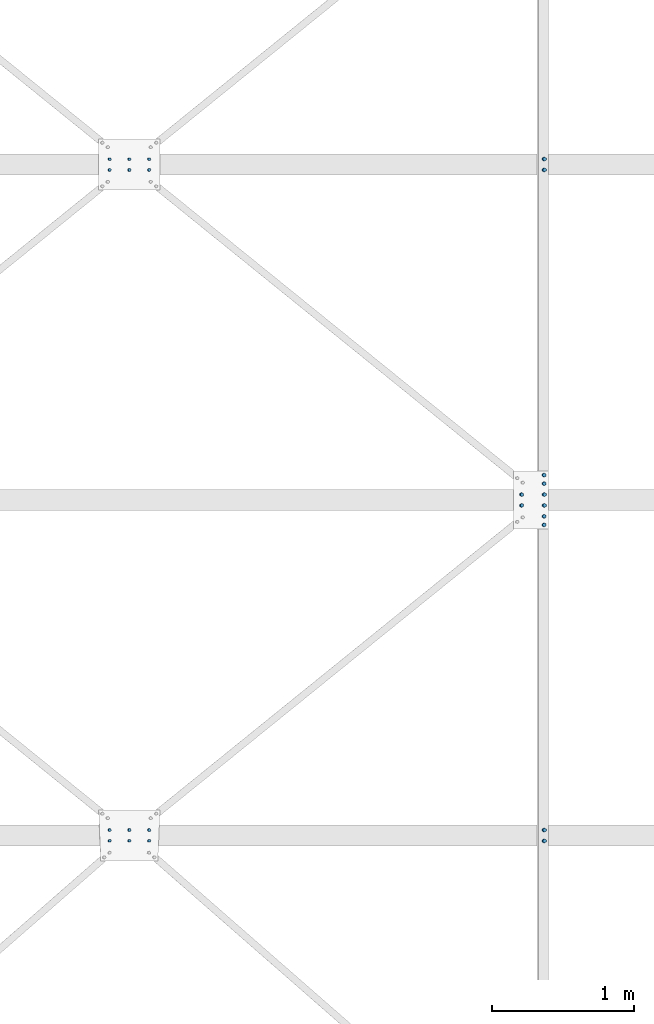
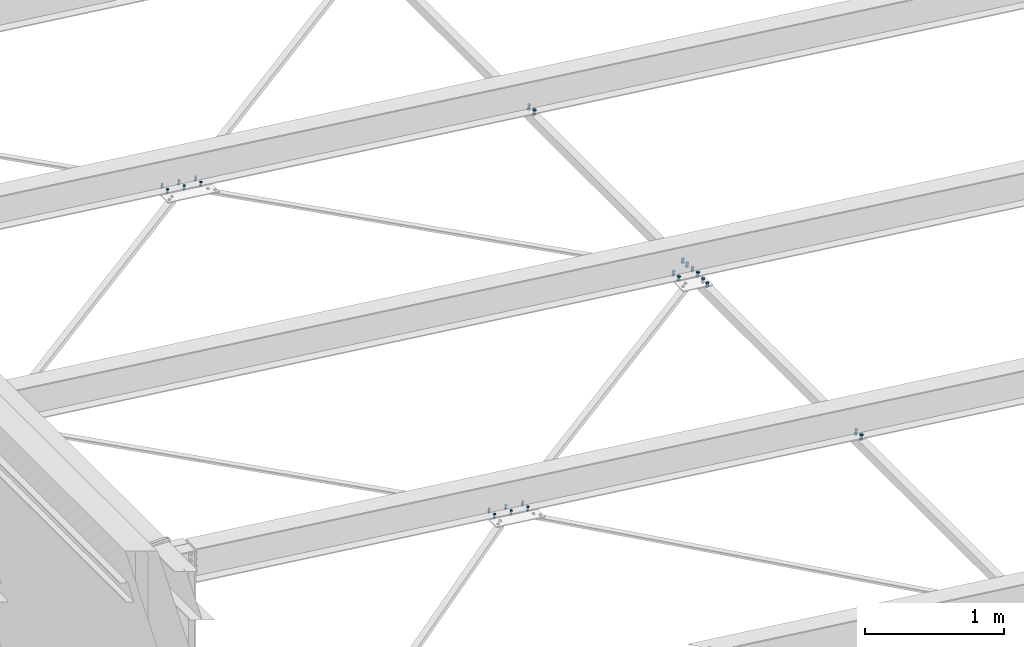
# One storey, part 35 of 3134: 7 mechanical fasteners, 6 elements without a shape of their own.
"""IFC2X3 building model written with IfcOpenShell, lengths in millimetres."""

from ifc_helpers import new_model, si_unit, frame, origin_with_axes, place, context, subcontext, project, spatial, faceted_brep, source, transform, mapped, material, type_object, element, aggregate, save


model = new_model("IFC2X3")

# Units and contexts
model_context = context("Model", 3, precision=1e-05, world=origin_with_axes())
body_context = subcontext(model_context, "Body", "Model", "MODEL_VIEW")
ifc_project = project(units=[si_unit("LENGTHUNIT", "METRE", prefix="MILLI"), si_unit("AREAUNIT", "SQUARE_METRE"), si_unit("VOLUMEUNIT", "CUBIC_METRE"), si_unit("MASSUNIT", "GRAM", prefix="KILO"), si_unit("TIMEUNIT", "SECOND"), si_unit("PLANEANGLEUNIT", "RADIAN"), si_unit("SOLIDANGLEUNIT", "STERADIAN"), si_unit("THERMODYNAMICTEMPERATUREUNIT", "DEGREE_CELSIUS"), si_unit("LUMINOUSINTENSITYUNIT", "LUMEN")], contexts=[model_context])

# Site, building, storey
site_placement = place(None, origin_with_axes())
site = spatial("IfcSite", under=ifc_project, at=site_placement, CompositionType="ELEMENT")
building_placement = place(site_placement, origin_with_axes())
building = spatial("IfcBuilding", under=site, at=building_placement, Name="Undefined", CompositionType="ELEMENT")
storey_placement = place(building_placement, origin_with_axes())
storey = spatial("IfcBuildingStorey", under=building, at=storey_placement, Name="Undefined", CompositionType="ELEMENT", Elevation=0.0)

# Assembly, mechanical fastener
assembly_1_placement = place(storey_placement, origin_with_axes())
assembly_1 = element("IfcElementAssembly", 1, at=assembly_1_placement, inside=storey, Name="300", AssemblyPlace="NOTDEFINED", PredefinedType="RIGID_FRAME")
ifc_material = material(Name="8.8")
mechanical_fastener_type = type_object("IfcMechanicalFastenerType", Name="Bolt assembly")
shared_shape_1 = source(origin_with_axes(), body_context, "Body", "Brep", [
    faceted_brep([(13.856406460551, -19.199990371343, 0.0), (6.92820323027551, -19.199990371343, 12.0), (-6.92820323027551, -19.199990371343, 12.0), (-13.856406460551, -19.199990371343, 1.69692038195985e-15), (-6.92820323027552, -19.199990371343, -12.0), (6.9282032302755, -19.199990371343, -12.0), (6.9282032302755, -9.19999037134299, -12.0), (-6.92820323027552, -9.19999037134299, -12.0), (-13.856406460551, -9.19999037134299, 1.69692038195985e-15), (-6.92820323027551, -9.19999037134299, 12.0), (6.92820323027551, -9.19999037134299, 12.0), (13.856406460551, -9.19999037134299, 0.0), (8.0, -9.19999037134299, 0.0), (6.92820323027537, -9.19999037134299, 4.00000000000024), (3.99999999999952, -9.19999037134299, 6.92820323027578), (-8.29068785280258e-13, -9.19999037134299, 8.0), (-4.00000000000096, -9.19999037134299, 6.92820323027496), (-6.9282032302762, -9.19999037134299, 3.99999999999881), (-8.0, -9.19999037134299, -1.65813757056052e-12), (-6.92820323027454, -9.19999037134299, -4.00000000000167), (-3.99999999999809, -9.19999037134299, -6.92820323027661), (2.47832457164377e-12, -9.19999037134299, -8.0), (4.00000000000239, -9.19999037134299, -6.92820323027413), (6.92820323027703, -9.19999037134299, -3.99999999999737), (6.92820323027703, 25.800009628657, -3.99999999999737), (4.00000000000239, 25.800009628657, -6.92820323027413), (2.47832457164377e-12, 25.800009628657, -8.0), (-3.99999999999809, 25.800009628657, -6.92820323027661), (-6.92820323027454, 25.800009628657, -4.00000000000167), (-8.0, 25.800009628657, -1.65813757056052e-12), (-6.9282032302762, 25.800009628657, 3.99999999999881), (-4.00000000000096, 25.800009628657, 6.92820323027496), (-8.29068785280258e-13, 25.800009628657, 8.0), (3.99999999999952, 25.800009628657, 6.92820323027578), (6.92820323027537, 25.800009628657, 4.00000000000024), (8.0, 25.800009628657, 0.0), (13.856406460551, 8.00000637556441, 0.0), (6.92820323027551, 8.00000637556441, 12.0), (-6.92820323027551, 8.00000637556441, 12.0), (-13.856406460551, 8.00000637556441, 1.69692038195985e-15), (-6.92820323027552, 8.00000637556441, -12.0), (6.9282032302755, 8.00000637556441, -12.0), (6.9282032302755, 21.0000063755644, -12.0), (-6.92820323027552, 21.0000063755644, -12.0), (-13.856406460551, 21.0000063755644, 1.69692038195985e-15), (-6.92820323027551, 21.0000063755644, 12.0), (6.92820323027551, 21.0000063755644, 12.0), (13.856406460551, 21.0000063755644, 0.0)], [[[0, 1, 2, 3, 4, 5]], [[6, 7, 8, 9, 10, 11]], [[0, 11, 10, 1]], [[1, 10, 9, 2]], [[2, 9, 8, 3]], [[3, 8, 7, 4]], [[4, 7, 6, 5]], [[5, 6, 11, 0]], [[12, 13, 14, 15, 16, 17, 18, 19, 20, 21, 22, 23]], [[24, 25, 26, 27, 28, 29, 30, 31, 32, 33, 34, 35]], [[12, 35, 34, 13]], [[13, 34, 33, 14]], [[14, 33, 32, 15]], [[15, 32, 31, 16]], [[16, 31, 30, 17]], [[17, 30, 29, 18]], [[18, 29, 28, 19]], [[19, 28, 27, 20]], [[20, 27, 26, 21]], [[21, 26, 25, 22]], [[22, 25, 24, 23]], [[23, 24, 35, 12]], [[36, 37, 38, 39, 40, 41]], [[42, 43, 44, 45, 46, 47]], [[36, 47, 46, 37]], [[37, 46, 45, 38]], [[38, 45, 44, 39]], [[39, 44, 43, 40]], [[40, 43, 42, 41]], [[41, 42, 47, 36]]]),
    faceted_brep([(9.0, -0.1, 0.0), (7.79422863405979, -0.1, 4.50000000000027), (4.49999999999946, -0.1, 7.79422863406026), (-9.3270238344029e-13, -0.1, 9.0), (-4.50000000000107, -0.1, 7.79422863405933), (-7.79422863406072, -0.1, 4.49999999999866), (-9.0, -0.1, -1.86540476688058e-12), (-7.79422863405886, -0.1, -4.50000000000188), (-4.49999999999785, -0.1, -7.79422863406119), (2.78811514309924e-12, -0.1, -9.0), (4.50000000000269, -0.1, -7.7942286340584), (7.79422863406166, -0.1, -4.49999999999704), (7.79422863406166, 8.00000000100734, -4.49999999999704), (4.50000000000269, 8.00000000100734, -7.7942286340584), (2.78811514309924e-12, 8.00000000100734, -9.0), (-4.49999999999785, 8.00000000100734, -7.79422863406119), (-7.79422863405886, 8.00000000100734, -4.50000000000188), (-9.0, 8.00000000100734, -1.86540476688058e-12), (-7.79422863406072, 8.00000000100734, 4.49999999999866), (-4.50000000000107, 8.00000000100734, 7.79422863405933), (-9.3270238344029e-13, 8.00000000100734, 9.0), (4.49999999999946, 8.00000000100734, 7.79422863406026), (7.79422863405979, 8.00000000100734, 4.50000000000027), (9.0, 8.00000000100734, 0.0), (9.0, -9.09999037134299, 0.0), (7.79422863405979, -9.09999037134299, 4.50000000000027), (4.49999999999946, -9.09999037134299, 7.79422863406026), (-9.3270238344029e-13, -9.09999037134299, 9.0), (-4.50000000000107, -9.09999037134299, 7.79422863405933), (-7.79422863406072, -9.09999037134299, 4.49999999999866), (-9.0, -9.09999037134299, -1.86540476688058e-12), (-7.79422863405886, -9.09999037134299, -4.50000000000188), (-4.49999999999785, -9.09999037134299, -7.79422863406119), (2.78811514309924e-12, -9.09999037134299, -9.0), (4.50000000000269, -9.09999037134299, -7.7942286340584), (7.79422863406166, -9.09999037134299, -4.49999999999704), (7.79422863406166, 0.100000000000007, -4.49999999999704), (4.50000000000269, 0.100000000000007, -7.7942286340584), (2.78811514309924e-12, 0.100000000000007, -9.0), (-4.49999999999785, 0.100000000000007, -7.79422863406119), (-7.79422863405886, 0.100000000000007, -4.50000000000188), (-9.0, 0.100000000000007, -1.86540476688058e-12), (-7.79422863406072, 0.100000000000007, 4.49999999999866), (-4.50000000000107, 0.100000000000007, 7.79422863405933), (-9.3270238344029e-13, 0.100000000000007, 9.0), (4.49999999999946, 0.100000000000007, 7.79422863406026), (7.79422863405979, 0.100000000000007, 4.50000000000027), (9.0, 0.100000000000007, 0.0)], [[[0, 1, 2, 3, 4, 5, 6, 7, 8, 9, 10, 11]], [[12, 13, 14, 15, 16, 17, 18, 19, 20, 21, 22, 23]], [[0, 23, 22, 1]], [[1, 22, 21, 2]], [[2, 21, 20, 3]], [[3, 20, 19, 4]], [[4, 19, 18, 5]], [[5, 18, 17, 6]], [[6, 17, 16, 7]], [[7, 16, 15, 8]], [[8, 15, 14, 9]], [[9, 14, 13, 10]], [[10, 13, 12, 11]], [[11, 12, 23, 0]], [[24, 25, 26, 27, 28, 29, 30, 31, 32, 33, 34, 35]], [[36, 37, 38, 39, 40, 41, 42, 43, 44, 45, 46, 47]], [[24, 47, 46, 25]], [[25, 46, 45, 26]], [[26, 45, 44, 27]], [[27, 44, 43, 28]], [[28, 43, 42, 29]], [[29, 42, 41, 30]], [[30, 41, 40, 31]], [[31, 40, 39, 32]], [[32, 39, 38, 33]], [[33, 38, 37, 34]], [[34, 37, 36, 35]], [[35, 36, 47, 24]]]),
])
mechanical_fastener_1_placement = place(assembly_1_placement, frame((26608.5751064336, 9972.0, 4816.43281405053), z_axis=(-0.992623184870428, 0.0, 0.121240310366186), x_axis=(0.0, 1.0, 0.0)))
mechanical_fastener_1 = element("IfcMechanicalFastener", 2, at=mechanical_fastener_1_placement, type_object=mechanical_fastener_type, material=ifc_material, Name="Bolt assembly", NominalDiameter=16.0, NominalLength=35.0, context=body_context, shape_type="MappedRepresentation", body=[
    mapped(shared_shape_1, transform((0.0, -5.32963895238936e-10, -79.9999999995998))),
    mapped(shared_shape_1, transform((76.0, -5.32963895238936e-10, -79.9999999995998))),
    mapped(shared_shape_1, transform((0.0, 5.3114490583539e-10, 79.9999999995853))),
    mapped(shared_shape_1, transform((76.0, 5.3114490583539e-10, 79.9999999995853))),
])
aggregate(assembly_1, [mechanical_fastener_1])

assembly_2_placement = place(storey_placement, origin_with_axes())
assembly_2 = element("IfcElementAssembly", 3, at=assembly_2_placement, inside=storey, AssemblyPlace="NOTDEFINED", PredefinedType="RIGID_FRAME")
shared_shape_2 = source(origin_with_axes(), body_context, "Body", "Brep", [
    faceted_brep([(13.856406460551, -19.199990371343, 0.0), (6.92820323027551, -19.199990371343, 12.0), (-6.92820323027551, -19.199990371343, 12.0), (-13.856406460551, -19.199990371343, 1.69692038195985e-15), (-6.92820323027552, -19.199990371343, -12.0), (6.9282032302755, -19.199990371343, -12.0), (6.9282032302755, -9.19999037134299, -12.0), (-6.92820323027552, -9.19999037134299, -12.0), (-13.856406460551, -9.19999037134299, 1.69692038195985e-15), (-6.92820323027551, -9.19999037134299, 12.0), (6.92820323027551, -9.19999037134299, 12.0), (13.856406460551, -9.19999037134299, 0.0), (8.0, -9.19999037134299, 0.0), (6.92820323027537, -9.19999037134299, 4.00000000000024), (3.99999999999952, -9.19999037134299, 6.92820323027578), (-8.29068785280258e-13, -9.19999037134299, 8.0), (-4.00000000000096, -9.19999037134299, 6.92820323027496), (-6.9282032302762, -9.19999037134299, 3.99999999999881), (-8.0, -9.19999037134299, -1.65813757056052e-12), (-6.92820323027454, -9.19999037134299, -4.00000000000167), (-3.99999999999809, -9.19999037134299, -6.92820323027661), (2.47832457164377e-12, -9.19999037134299, -8.0), (4.00000000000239, -9.19999037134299, -6.92820323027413), (6.92820323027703, -9.19999037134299, -3.99999999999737), (6.92820323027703, 35.8000002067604, -3.99999999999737), (4.00000000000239, 35.8000002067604, -6.92820323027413), (2.47832457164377e-12, 35.8000002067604, -8.0), (-3.99999999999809, 35.8000002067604, -6.92820323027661), (-6.92820323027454, 35.8000002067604, -4.00000000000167), (-8.0, 35.8000002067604, -1.65813757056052e-12), (-6.9282032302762, 35.8000002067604, 3.99999999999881), (-4.00000000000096, 35.8000002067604, 6.92820323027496), (-8.29068785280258e-13, 35.8000002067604, 8.0), (3.99999999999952, 35.8000002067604, 6.92820323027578), (6.92820323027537, 35.8000002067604, 4.00000000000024), (8.0, 35.8000002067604, 0.0), (13.856406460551, 14.9999995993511, 0.0), (6.92820323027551, 14.9999995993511, 12.0), (-6.92820323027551, 14.9999995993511, 12.0), (-13.856406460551, 14.9999995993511, 1.69692038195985e-15), (-6.92820323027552, 14.9999995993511, -12.0), (6.9282032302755, 14.9999995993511, -12.0), (6.9282032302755, 27.9999995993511, -12.0), (-6.92820323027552, 27.9999995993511, -12.0), (-13.856406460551, 27.9999995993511, 1.69692038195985e-15), (-6.92820323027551, 27.9999995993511, 12.0), (6.92820323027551, 27.9999995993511, 12.0), (13.856406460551, 27.9999995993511, 0.0)], [[[0, 1, 2, 3, 4, 5]], [[6, 7, 8, 9, 10, 11]], [[0, 11, 10, 1]], [[1, 10, 9, 2]], [[2, 9, 8, 3]], [[3, 8, 7, 4]], [[4, 7, 6, 5]], [[5, 6, 11, 0]], [[12, 13, 14, 15, 16, 17, 18, 19, 20, 21, 22, 23]], [[24, 25, 26, 27, 28, 29, 30, 31, 32, 33, 34, 35]], [[12, 35, 34, 13]], [[13, 34, 33, 14]], [[14, 33, 32, 15]], [[15, 32, 31, 16]], [[16, 31, 30, 17]], [[17, 30, 29, 18]], [[18, 29, 28, 19]], [[19, 28, 27, 20]], [[20, 27, 26, 21]], [[21, 26, 25, 22]], [[22, 25, 24, 23]], [[23, 24, 35, 12]], [[36, 37, 38, 39, 40, 41]], [[42, 43, 44, 45, 46, 47]], [[36, 47, 46, 37]], [[37, 46, 45, 38]], [[38, 45, 44, 39]], [[39, 44, 43, 40]], [[40, 43, 42, 41]], [[41, 42, 47, 36]]]),
    faceted_brep([(9.0, -9.09999037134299, 0.0), (7.79422863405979, -9.09999037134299, 4.50000000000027), (4.49999999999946, -9.09999037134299, 7.79422863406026), (-9.3270238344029e-13, -9.09999037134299, 9.0), (-4.50000000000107, -9.09999037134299, 7.79422863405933), (-7.79422863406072, -9.09999037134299, 4.49999999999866), (-9.0, -9.09999037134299, -1.86540476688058e-12), (-7.79422863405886, -9.09999037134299, -4.50000000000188), (-4.49999999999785, -9.09999037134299, -7.79422863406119), (2.78811514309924e-12, -9.09999037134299, -9.0), (4.50000000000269, -9.09999037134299, -7.7942286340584), (7.79422863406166, -9.09999037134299, -4.49999999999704), (7.79422863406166, 0.100000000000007, -4.49999999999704), (4.50000000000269, 0.100000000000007, -7.7942286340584), (2.78811514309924e-12, 0.100000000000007, -9.0), (-4.49999999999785, 0.100000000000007, -7.79422863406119), (-7.79422863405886, 0.100000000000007, -4.50000000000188), (-9.0, 0.100000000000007, -1.86540476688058e-12), (-7.79422863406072, 0.100000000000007, 4.49999999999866), (-4.50000000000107, 0.100000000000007, 7.79422863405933), (-9.3270238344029e-13, 0.100000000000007, 9.0), (4.49999999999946, 0.100000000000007, 7.79422863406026), (7.79422863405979, 0.100000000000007, 4.50000000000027), (9.0, 0.100000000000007, 0.0), (9.0, 7.9, 0.0), (7.79422863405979, 7.9, 4.50000000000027), (4.49999999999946, 7.9, 7.79422863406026), (-9.3270238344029e-13, 7.9, 9.0), (-4.50000000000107, 7.9, 7.79422863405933), (-7.79422863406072, 7.9, 4.49999999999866), (-9.0, 7.9, -1.86540476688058e-12), (-7.79422863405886, 7.9, -4.50000000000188), (-4.49999999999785, 7.9, -7.79422863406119), (2.78811514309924e-12, 7.9, -9.0), (4.50000000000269, 7.9, -7.7942286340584), (7.79422863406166, 7.9, -4.49999999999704), (7.79422863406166, 14.9999995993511, -4.49999999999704), (4.50000000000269, 14.9999995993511, -7.7942286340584), (2.78811514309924e-12, 14.9999995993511, -9.0), (-4.49999999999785, 14.9999995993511, -7.79422863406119), (-7.79422863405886, 14.9999995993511, -4.50000000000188), (-9.0, 14.9999995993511, -1.86540476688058e-12), (-7.79422863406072, 14.9999995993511, 4.49999999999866), (-4.50000000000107, 14.9999995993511, 7.79422863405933), (-9.3270238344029e-13, 14.9999995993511, 9.0), (4.49999999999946, 14.9999995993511, 7.79422863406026), (7.79422863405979, 14.9999995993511, 4.50000000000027), (9.0, 14.9999995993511, 0.0)], [[[0, 1, 2, 3, 4, 5, 6, 7, 8, 9, 10, 11]], [[12, 13, 14, 15, 16, 17, 18, 19, 20, 21, 22, 23]], [[0, 23, 22, 1]], [[1, 22, 21, 2]], [[2, 21, 20, 3]], [[3, 20, 19, 4]], [[4, 19, 18, 5]], [[5, 18, 17, 6]], [[6, 17, 16, 7]], [[7, 16, 15, 8]], [[8, 15, 14, 9]], [[9, 14, 13, 10]], [[10, 13, 12, 11]], [[11, 12, 23, 0]], [[24, 25, 26, 27, 28, 29, 30, 31, 32, 33, 34, 35]], [[36, 37, 38, 39, 40, 41, 42, 43, 44, 45, 46, 47]], [[24, 47, 46, 25]], [[25, 46, 45, 26]], [[26, 45, 44, 27]], [[27, 44, 43, 28]], [[28, 43, 42, 29]], [[29, 42, 41, 30]], [[30, 41, 40, 31]], [[31, 40, 39, 32]], [[32, 39, 38, 33]], [[33, 38, 37, 34]], [[34, 37, 36, 35]], [[35, 36, 47, 24]]]),
])
mechanical_fastener_2_placement = place(assembly_2_placement, frame((26687.984961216, 12332.0, 4806.73358921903), z_axis=(-0.992623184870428, 0.0, 0.121240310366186), x_axis=(0.0, 1.0, 0.0)))
mechanical_fastener_2 = element("IfcMechanicalFastener", 4, at=mechanical_fastener_2_placement, type_object=mechanical_fastener_type, material=ifc_material, Name="Bolt assembly", NominalDiameter=16.0, NominalLength=45.0, context=body_context, shape_type="MappedRepresentation", body=[
    mapped(shared_shape_2, transform((0.0, 0.0, 0.0))),
    mapped(shared_shape_2, transform((76.0, 0.0, 0.0))),
])
aggregate(assembly_2, [mechanical_fastener_2])

assembly_3_placement = place(storey_placement, origin_with_axes())
assembly_3 = element("IfcElementAssembly", 5, at=assembly_3_placement, inside=storey, AssemblyPlace="NOTDEFINED", PredefinedType="RIGID_FRAME")
mechanical_fastener_3_placement = place(assembly_3_placement, frame((26687.9849612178, 7612.0, 4806.73358921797), z_axis=(-0.992623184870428, 0.0, 0.121240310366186), x_axis=(0.0, 1.0, 0.0)))
mechanical_fastener_3 = element("IfcMechanicalFastener", 6, at=mechanical_fastener_3_placement, type_object=mechanical_fastener_type, material=ifc_material, Name="Bolt assembly", NominalDiameter=16.0, NominalLength=45.0, context=body_context, shape_type="MappedRepresentation", body=[
    mapped(shared_shape_2, transform((0.0, 0.0, 0.0))),
    mapped(shared_shape_2, transform((76.0, 0.0, 0.0))),
])
aggregate(assembly_3, [mechanical_fastener_3])

# Assembly, mechanical fasteners
assembly_4_placement = place(storey_placement, origin_with_axes())
assembly_4 = element("IfcElementAssembly", 7, at=assembly_4_placement, inside=storey, Name="PL8", AssemblyPlace="NOTDEFINED", PredefinedType="RIGID_FRAME")
shared_shape_3 = source(origin_with_axes(), body_context, "Body", "Brep", [
    faceted_brep([(13.856406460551, -10.0, 0.0), (6.92820323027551, -10.0, 12.0), (-6.92820323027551, -10.0, 12.0), (-13.856406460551, -10.0, 1.69692038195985e-15), (-6.92820323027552, -10.0, -12.0), (6.9282032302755, -10.0, -12.0), (6.9282032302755, 0.0, -12.0), (-6.92820323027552, 0.0, -12.0), (-13.856406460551, 0.0, 1.69692038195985e-15), (-6.92820323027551, 0.0, 12.0), (6.92820323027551, 0.0, 12.0), (13.856406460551, 0.0, 0.0), (8.0, 0.0, 0.0), (6.92820323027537, 0.0, 4.00000000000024), (3.99999999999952, 0.0, 6.92820323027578), (-8.29068785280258e-13, 0.0, 8.0), (-4.00000000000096, 0.0, 6.92820323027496), (-6.9282032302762, 0.0, 3.99999999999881), (-8.0, 0.0, -1.65813757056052e-12), (-6.92820323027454, 0.0, -4.00000000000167), (-3.99999999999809, 0.0, -6.92820323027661), (2.47832457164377e-12, 0.0, -8.0), (4.00000000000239, 0.0, -6.92820323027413), (6.92820323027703, 0.0, -3.99999999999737), (6.92820323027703, 35.0000000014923, -3.99999999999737), (4.00000000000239, 35.0000000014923, -6.92820323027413), (2.47832457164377e-12, 35.0000000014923, -8.0), (-3.99999999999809, 35.0000000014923, -6.92820323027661), (-6.92820323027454, 35.0000000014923, -4.00000000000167), (-8.0, 35.0000000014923, -1.65813757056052e-12), (-6.9282032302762, 35.0000000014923, 3.99999999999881), (-4.00000000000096, 35.0000000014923, 6.92820323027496), (-8.29068785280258e-13, 35.0000000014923, 8.0), (3.99999999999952, 35.0000000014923, 6.92820323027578), (6.92820323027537, 35.0000000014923, 4.00000000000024), (8.0, 35.0000000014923, 0.0), (13.856406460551, 14.9999995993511, 0.0), (6.92820323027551, 14.9999995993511, 12.0), (-6.92820323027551, 14.9999995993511, 12.0), (-13.856406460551, 14.9999995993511, 1.69692038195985e-15), (-6.92820323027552, 14.9999995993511, -12.0), (6.9282032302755, 14.9999995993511, -12.0), (6.9282032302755, 27.9999995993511, -12.0), (-6.92820323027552, 27.9999995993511, -12.0), (-13.856406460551, 27.9999995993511, 1.69692038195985e-15), (-6.92820323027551, 27.9999995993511, 12.0), (6.92820323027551, 27.9999995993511, 12.0), (13.856406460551, 27.9999995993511, 0.0)], [[[0, 1, 2, 3, 4, 5]], [[6, 7, 8, 9, 10, 11]], [[0, 11, 10, 1]], [[1, 10, 9, 2]], [[2, 9, 8, 3]], [[3, 8, 7, 4]], [[4, 7, 6, 5]], [[5, 6, 11, 0]], [[12, 13, 14, 15, 16, 17, 18, 19, 20, 21, 22, 23]], [[24, 25, 26, 27, 28, 29, 30, 31, 32, 33, 34, 35]], [[12, 35, 34, 13]], [[13, 34, 33, 14]], [[14, 33, 32, 15]], [[15, 32, 31, 16]], [[16, 31, 30, 17]], [[17, 30, 29, 18]], [[18, 29, 28, 19]], [[19, 28, 27, 20]], [[20, 27, 26, 21]], [[21, 26, 25, 22]], [[22, 25, 24, 23]], [[23, 24, 35, 12]], [[36, 37, 38, 39, 40, 41]], [[42, 43, 44, 45, 46, 47]], [[36, 47, 46, 37]], [[37, 46, 45, 38]], [[38, 45, 44, 39]], [[39, 44, 43, 40]], [[40, 43, 42, 41]], [[41, 42, 47, 36]]]),
    faceted_brep([(9.0, 7.9, 0.0), (7.79422863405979, 7.9, 4.50000000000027), (4.49999999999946, 7.9, 7.79422863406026), (-9.3270238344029e-13, 7.9, 9.0), (-4.50000000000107, 7.9, 7.79422863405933), (-7.79422863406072, 7.9, 4.49999999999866), (-9.0, 7.9, -1.86540476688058e-12), (-7.79422863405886, 7.9, -4.50000000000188), (-4.49999999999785, 7.9, -7.79422863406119), (2.78811514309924e-12, 7.9, -9.0), (4.50000000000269, 7.9, -7.7942286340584), (7.79422863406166, 7.9, -4.49999999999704), (7.79422863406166, 14.9999995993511, -4.49999999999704), (4.50000000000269, 14.9999995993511, -7.7942286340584), (2.78811514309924e-12, 14.9999995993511, -9.0), (-4.49999999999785, 14.9999995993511, -7.79422863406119), (-7.79422863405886, 14.9999995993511, -4.50000000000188), (-9.0, 14.9999995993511, -1.86540476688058e-12), (-7.79422863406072, 14.9999995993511, 4.49999999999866), (-4.50000000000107, 14.9999995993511, 7.79422863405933), (-9.3270238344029e-13, 14.9999995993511, 9.0), (4.49999999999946, 14.9999995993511, 7.79422863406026), (7.79422863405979, 14.9999995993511, 4.50000000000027), (9.0, 14.9999995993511, 0.0), (9.0, 0.100000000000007, 0.0), (7.79422863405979, 0.100000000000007, 4.50000000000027), (4.49999999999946, 0.100000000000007, 7.79422863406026), (-9.3270238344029e-13, 0.100000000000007, 9.0), (-4.50000000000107, 0.100000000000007, 7.79422863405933), (-7.79422863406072, 0.100000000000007, 4.49999999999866), (-9.0, 0.100000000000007, -1.86540476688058e-12), (-7.79422863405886, 0.100000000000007, -4.50000000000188), (-4.49999999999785, 0.100000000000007, -7.79422863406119), (2.78811514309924e-12, 0.100000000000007, -9.0), (4.50000000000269, 0.100000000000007, -7.7942286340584), (7.79422863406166, 0.100000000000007, -4.49999999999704), (7.79422863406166, 8.1, -4.49999999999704), (4.50000000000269, 8.1, -7.7942286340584), (2.78811514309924e-12, 8.1, -9.0), (-4.49999999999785, 8.1, -7.79422863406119), (-7.79422863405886, 8.1, -4.50000000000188), (-9.0, 8.1, -1.86540476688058e-12), (-7.79422863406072, 8.1, 4.49999999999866), (-4.50000000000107, 8.1, 7.79422863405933), (-9.3270238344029e-13, 8.1, 9.0), (4.49999999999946, 8.1, 7.79422863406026), (7.79422863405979, 8.1, 4.50000000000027), (9.0, 8.1, 0.0)], [[[0, 1, 2, 3, 4, 5, 6, 7, 8, 9, 10, 11]], [[12, 13, 14, 15, 16, 17, 18, 19, 20, 21, 22, 23]], [[0, 23, 22, 1]], [[1, 22, 21, 2]], [[2, 21, 20, 3]], [[3, 20, 19, 4]], [[4, 19, 18, 5]], [[5, 18, 17, 6]], [[6, 17, 16, 7]], [[7, 16, 15, 8]], [[8, 15, 14, 9]], [[9, 14, 13, 10]], [[10, 13, 12, 11]], [[11, 12, 23, 0]], [[24, 25, 26, 27, 28, 29, 30, 31, 32, 33, 34, 35]], [[36, 37, 38, 39, 40, 41, 42, 43, 44, 45, 46, 47]], [[24, 47, 46, 25]], [[25, 46, 45, 26]], [[26, 45, 44, 27]], [[27, 44, 43, 28]], [[28, 43, 42, 29]], [[29, 42, 41, 30]], [[30, 41, 40, 31]], [[31, 40, 39, 32]], [[32, 39, 38, 33]], [[33, 38, 37, 34]], [[34, 37, 36, 35]], [[35, 36, 47, 24]]]),
])
mechanical_fastener_4_placement = place(assembly_4_placement, frame((26687.9849612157, 10185.0, 4806.73358921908), z_axis=(0.992623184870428, 0.0, -0.121240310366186), x_axis=(0.0, -1.0, 0.0)))
mechanical_fastener_4 = element("IfcMechanicalFastener", 8, at=mechanical_fastener_4_placement, type_object=mechanical_fastener_type, material=ifc_material, Name="Bolt assembly", NominalDiameter=16.0, NominalLength=35.0, context=body_context, shape_type="MappedRepresentation", body=[
    mapped(shared_shape_3, transform((0.0, 0.0, 0.0))),
    mapped(shared_shape_3, transform((59.9999999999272, 0.0, 5.40239852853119e-10))),
])
mechanical_fastener_5_placement = place(assembly_4_placement, frame((26687.9849612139, 9894.99999999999, 4806.73358922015), z_axis=(0.992623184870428, 0.0, -0.121240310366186), x_axis=(0.0, -1.0, 0.0)))
mechanical_fastener_5 = element("IfcMechanicalFastener", 9, at=mechanical_fastener_5_placement, type_object=mechanical_fastener_type, material=ifc_material, Name="Bolt assembly", NominalDiameter=16.0, NominalLength=35.0, context=body_context, shape_type="MappedRepresentation", body=[
    mapped(shared_shape_3, transform((0.0, 0.0, 0.0))),
    mapped(shared_shape_3, transform((59.9999999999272, 0.0, 5.40239852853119e-10))),
])
aggregate(assembly_4, [mechanical_fastener_4, mechanical_fastener_5])

# Assembly, mechanical fastener
assembly_5_placement = place(storey_placement, origin_with_axes())
assembly_5 = element("IfcElementAssembly", 10, at=assembly_5_placement, inside=storey, Name="300", AssemblyPlace="NOTDEFINED", PredefinedType="RIGID_FRAME")
shared_shape_4 = source(origin_with_axes(), body_context, "Body", "Brep", [
    faceted_brep([(10.9696551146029, -17.1999998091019, 0.0), (5.48482755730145, -17.1999998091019, 9.5), (-5.48482755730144, -17.1999998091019, 9.5), (-10.9696551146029, -17.1999998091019, 1.34339530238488e-15), (-5.48482755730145, -17.1999998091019, -9.5), (5.48482755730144, -17.1999998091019, -9.50000000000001), (5.48482755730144, -9.19999978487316, -9.50000000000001), (-5.48482755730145, -9.19999978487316, -9.5), (-10.9696551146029, -9.19999978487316, 1.34339530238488e-15), (-5.48482755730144, -9.19999978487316, 9.5), (5.48482755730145, -9.19999978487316, 9.5), (10.9696551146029, -9.19999978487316, 0.0), (6.0, -9.19999978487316, 0.0), (5.19615242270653, -9.19999978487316, 3.00000000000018), (2.99999999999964, -9.19999978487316, 5.19615242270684), (-6.21801588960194e-13, -9.19999978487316, 6.0), (-3.00000000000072, -9.19999978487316, 5.19615242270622), (-5.19615242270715, -9.19999978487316, 2.9999999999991), (-6.0, -9.19999978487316, -1.24360317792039e-12), (-5.19615242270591, -9.19999978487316, -3.00000000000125), (-2.99999999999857, -9.19999978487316, -5.19615242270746), (1.85874342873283e-12, -9.19999978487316, -6.0), (3.00000000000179, -9.19999978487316, -5.1961524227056), (5.19615242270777, -9.19999978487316, -2.99999999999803), (5.19615242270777, 25.8000002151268, -2.99999999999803), (3.00000000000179, 25.8000002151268, -5.1961524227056), (1.85874342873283e-12, 25.8000002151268, -6.0), (-2.99999999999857, 25.8000002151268, -5.19615242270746), (-5.19615242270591, 25.8000002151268, -3.00000000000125), (-6.0, 25.8000002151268, -1.24360317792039e-12), (-5.19615242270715, 25.8000002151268, 2.9999999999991), (-3.00000000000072, 25.8000002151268, 5.19615242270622), (-6.21801588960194e-13, 25.8000002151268, 6.0), (2.99999999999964, 25.8000002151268, 5.19615242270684), (5.19615242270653, 25.8000002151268, 3.00000000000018), (6.0, 25.8000002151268, 0.0), (10.9696551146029, 8.0, 0.0), (5.48482755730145, 8.0, 9.5), (-5.48482755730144, 8.0, 9.5), (-10.9696551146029, 8.0, 1.34339530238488e-15), (-5.48482755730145, 8.0, -9.5), (5.48482755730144, 8.0, -9.50000000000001), (5.48482755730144, 18.0, -9.50000000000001), (-5.48482755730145, 18.0, -9.5), (-10.9696551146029, 18.0, 1.34339530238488e-15), (-5.48482755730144, 18.0, 9.5), (5.48482755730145, 18.0, 9.5), (10.9696551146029, 18.0, 0.0)], [[[0, 1, 2, 3, 4, 5]], [[6, 7, 8, 9, 10, 11]], [[0, 11, 10, 1]], [[1, 10, 9, 2]], [[2, 9, 8, 3]], [[3, 8, 7, 4]], [[4, 7, 6, 5]], [[5, 6, 11, 0]], [[12, 13, 14, 15, 16, 17, 18, 19, 20, 21, 22, 23]], [[24, 25, 26, 27, 28, 29, 30, 31, 32, 33, 34, 35]], [[12, 35, 34, 13]], [[13, 34, 33, 14]], [[14, 33, 32, 15]], [[15, 32, 31, 16]], [[16, 31, 30, 17]], [[17, 30, 29, 18]], [[18, 29, 28, 19]], [[19, 28, 27, 20]], [[20, 27, 26, 21]], [[21, 26, 25, 22]], [[22, 25, 24, 23]], [[23, 24, 35, 12]], [[36, 37, 38, 39, 40, 41]], [[42, 43, 44, 45, 46, 47]], [[36, 47, 46, 37]], [[37, 46, 45, 38]], [[38, 45, 44, 39]], [[39, 44, 43, 40]], [[40, 43, 42, 41]], [[41, 42, 47, 36]]]),
    faceted_brep([(7.0, -0.1, 0.0), (6.06217782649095, -0.1, 3.50000000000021), (3.49999999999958, -0.1, 6.06217782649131), (-7.25435187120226e-13, -0.1, 7.0), (-3.50000000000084, -0.1, 6.06217782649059), (-6.06217782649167, -0.1, 3.49999999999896), (-7.0, -0.1, -1.45087037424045e-12), (-6.06217782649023, -0.1, -3.50000000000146), (-3.49999999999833, -0.1, -6.06217782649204), (2.1685340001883e-12, -0.1, -7.0), (3.50000000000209, -0.1, -6.06217782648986), (6.0621778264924, -0.1, -3.4999999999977), (6.0621778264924, 8.0000000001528, -3.4999999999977), (3.50000000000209, 8.0000000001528, -6.06217782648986), (2.1685340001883e-12, 8.0000000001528, -7.0), (-3.49999999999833, 8.0000000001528, -6.06217782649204), (-6.06217782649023, 8.0000000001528, -3.50000000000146), (-7.0, 8.0000000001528, -1.45087037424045e-12), (-6.06217782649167, 8.0000000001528, 3.49999999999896), (-3.50000000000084, 8.0000000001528, 6.06217782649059), (-7.25435187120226e-13, 8.0000000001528, 7.0), (3.49999999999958, 8.0000000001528, 6.06217782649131), (6.06217782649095, 8.0000000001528, 3.50000000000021), (7.0, 8.0000000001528, 0.0), (7.0, -9.09999980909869, 0.0), (6.06217782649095, -9.09999980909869, 3.50000000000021), (3.49999999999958, -9.09999980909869, 6.06217782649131), (-7.25435187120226e-13, -9.09999980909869, 7.0), (-3.50000000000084, -9.09999980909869, 6.06217782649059), (-6.06217782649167, -9.09999980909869, 3.49999999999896), (-7.0, -9.09999980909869, -1.45087037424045e-12), (-6.06217782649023, -9.09999980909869, -3.50000000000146), (-3.49999999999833, -9.09999980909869, -6.06217782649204), (2.1685340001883e-12, -9.09999980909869, -7.0), (3.50000000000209, -9.09999980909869, -6.06217782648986), (6.0621778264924, -9.09999980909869, -3.4999999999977), (6.0621778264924, 0.0999999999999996, -3.4999999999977), (3.50000000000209, 0.0999999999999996, -6.06217782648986), (2.1685340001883e-12, 0.0999999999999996, -7.0), (-3.49999999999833, 0.0999999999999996, -6.06217782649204), (-6.06217782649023, 0.0999999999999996, -3.50000000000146), (-7.0, 0.0999999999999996, -1.45087037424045e-12), (-6.06217782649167, 0.0999999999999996, 3.49999999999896), (-3.50000000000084, 0.0999999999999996, 6.06217782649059), (-7.25435187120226e-13, 0.0999999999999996, 7.0), (3.49999999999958, 0.0999999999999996, 6.06217782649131), (6.06217782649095, 0.0999999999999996, 3.50000000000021), (7.0, 0.0999999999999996, 0.0)], [[[0, 1, 2, 3, 4, 5, 6, 7, 8, 9, 10, 11]], [[12, 13, 14, 15, 16, 17, 18, 19, 20, 21, 22, 23]], [[0, 23, 22, 1]], [[1, 22, 21, 2]], [[2, 21, 20, 3]], [[3, 20, 19, 4]], [[4, 19, 18, 5]], [[5, 18, 17, 6]], [[6, 17, 16, 7]], [[7, 16, 15, 8]], [[8, 15, 14, 9]], [[9, 14, 13, 10]], [[10, 13, 12, 11]], [[11, 12, 23, 0]], [[24, 25, 26, 27, 28, 29, 30, 31, 32, 33, 34, 35]], [[36, 37, 38, 39, 40, 41, 42, 43, 44, 45, 46, 47]], [[24, 47, 46, 25]], [[25, 46, 45, 26]], [[26, 45, 44, 27]], [[27, 44, 43, 28]], [[28, 43, 42, 29]], [[29, 42, 41, 30]], [[30, 41, 40, 31]], [[31, 40, 39, 32]], [[32, 39, 38, 33]], [[33, 38, 37, 34]], [[34, 37, 36, 35]], [[35, 36, 47, 24]]]),
])
mechanical_fastener_6_placement = place(assembly_5_placement, frame((23908.2022067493, 12370.0, 5146.259936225), z_axis=(0.0, -1.0, 0.0), x_axis=(-0.992623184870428, 0.0, 0.121240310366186)))
mechanical_fastener_6 = element("IfcMechanicalFastener", 11, at=mechanical_fastener_6_placement, type_object=mechanical_fastener_type, material=ifc_material, Name="Bolt assembly", NominalDiameter=12.0, NominalLength=35.0, context=body_context, shape_type="MappedRepresentation", body=[
    mapped(shared_shape_4, transform((0.0, 0.0, -38.0))),
    mapped(shared_shape_4, transform((140.000000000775, 5.85714587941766e-10, -38.0))),
    mapped(shared_shape_4, transform((279.999999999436, -4.74756234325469e-10, -38.0))),
    mapped(shared_shape_4, transform((0.0, 0.0, 38.0))),
    mapped(shared_shape_4, transform((140.000000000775, 5.85714587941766e-10, 38.0))),
    mapped(shared_shape_4, transform((279.999999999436, -4.74756234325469e-10, 38.0))),
])
aggregate(assembly_5, [mechanical_fastener_6])

assembly_6_placement = place(storey_placement, origin_with_axes())
assembly_6 = element("IfcElementAssembly", 12, at=assembly_6_placement, inside=storey, Name="300", AssemblyPlace="NOTDEFINED", PredefinedType="RIGID_FRAME")
mechanical_fastener_7_placement = place(assembly_6_placement, frame((23908.202206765, 7650.0, 5146.25993621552), z_axis=(0.0, -1.0, 0.0), x_axis=(-0.992623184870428, 0.0, 0.121240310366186)))
mechanical_fastener_7 = element("IfcMechanicalFastener", 13, at=mechanical_fastener_7_placement, type_object=mechanical_fastener_type, material=ifc_material, Name="Bolt assembly", NominalDiameter=12.0, NominalLength=35.0, context=body_context, shape_type="MappedRepresentation", body=[
    mapped(shared_shape_4, transform((0.0, 0.0, -38.0))),
    mapped(shared_shape_4, transform((140.000000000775, 5.85714587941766e-10, -38.0))),
    mapped(shared_shape_4, transform((279.999999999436, -4.74756234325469e-10, -38.0))),
    mapped(shared_shape_4, transform((0.0, 0.0, 38.0))),
    mapped(shared_shape_4, transform((140.000000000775, 5.85714587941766e-10, 38.0))),
    mapped(shared_shape_4, transform((279.999999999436, -4.74756234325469e-10, 38.0))),
])
aggregate(assembly_6, [mechanical_fastener_7])

save(model, "model.ifc")
